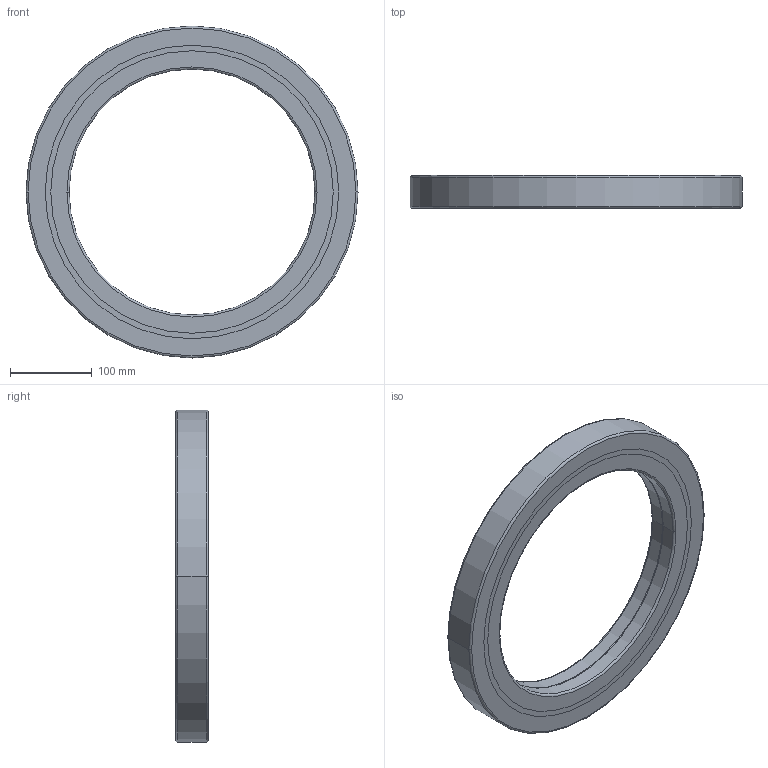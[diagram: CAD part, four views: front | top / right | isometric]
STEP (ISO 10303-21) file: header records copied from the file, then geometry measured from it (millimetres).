
FILE_DESCRIPTION(('starvars output'),'2;1');
FILE_NAME('cv20160920044241000003861.stp','04:42:43 2016/09/20',( 'Thomas Industrial Network Germany GmbH'),( 'Thomas Industrial Network Germany GmbH'),'unknown preprocess','ACIS' ,'unknown authorization');
FILE_SCHEMA(('AUTOMOTIVE_DESIGN_CC2 {UNKNOWN IMPLEMENTATION LEVEL}'));
Length unit declared in the file: millimetre
Products named in the file (1): PRODUCT_ID_1
Bounding box: 405 x 40 x 405 mm (x, y, z)
Volume: 2211624.4 mm3; surface area: 391398.2 mm2
Topology: 1 solids, 2 shells, 660 faces, 1620 edges, 1116 vertices
Faces by surface type: cylinder 472, plane 160, cone 20, torus 8
Entity records: 26525 total; most frequent: CARTESIAN_POINT 7920, ORIENTED_EDGE 3240, DIRECTION 1864, EDGE_CURVE 1620, VERTEX_POINT 1116, EDGE_LOOP 964, FACE_BOUND 964, AXIS2_PLACEMENT_3D 684
